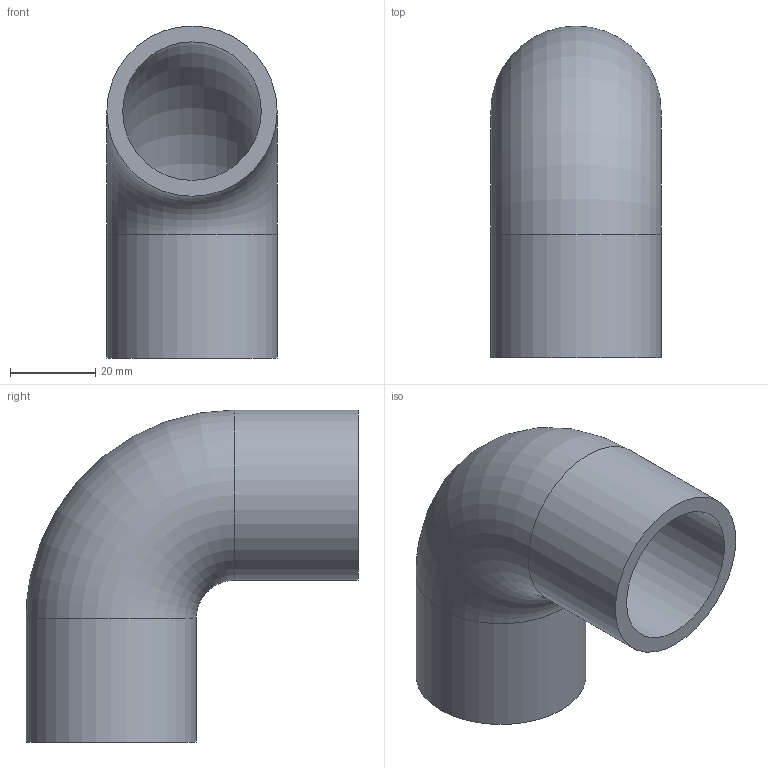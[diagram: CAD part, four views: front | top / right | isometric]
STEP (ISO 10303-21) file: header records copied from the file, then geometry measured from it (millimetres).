
FILE_DESCRIPTION(/* description */ ('ＶＰ'),/* implementation_level */ '2;1');
FILE_NAME(/* name */ 'C:\Users\Fujimoto-s\OneDrive\Inventor\WorkSpace\\X2\305D306E4ED6\X0\\ホームページ用\\X2\30C030A630F330ED30FC30C97D206750\X0\\塩ビ配管\TS-L25\TS-L25.stp',/* time_stamp */ '2024-08-10T13:28:46+09:00',/* author */ ('Fujimoto-s'),/* organization */ (''),/* preprocessor_version */ 'ST-DEVELOPER v15.2',/* originating_system */ 'Autodesk Inventor 2014',/* authorisation */ '');
FILE_SCHEMA (('AUTOMOTIVE_DESIGN { 1 0 10303 214 3 1 1 }'));
Length unit declared in the file: millimetre
Products named in the file (1): TS-L25
Bounding box: 40 x 78 x 78 mm (x, y, z)
Volume: 43958.9 mm3; surface area: 24451.1 mm2
Topology: 1 solids, 1 shells, 8 faces, 14 edges, 8 vertices
Faces by surface type: cylinder 4, torus 2, plane 2
Full cylindrical faces by diameter (mm): 32.55 x2, 40 x2
Entity records: 192 total; most frequent: DIRECTION 34, CARTESIAN_POINT 25, AXIS2_PLACEMENT_3D 17, EDGE_LOOP 16, ORIENTED_EDGE 16, FACE_BOUND 10, CIRCLE 8, VERTEX_POINT 8
